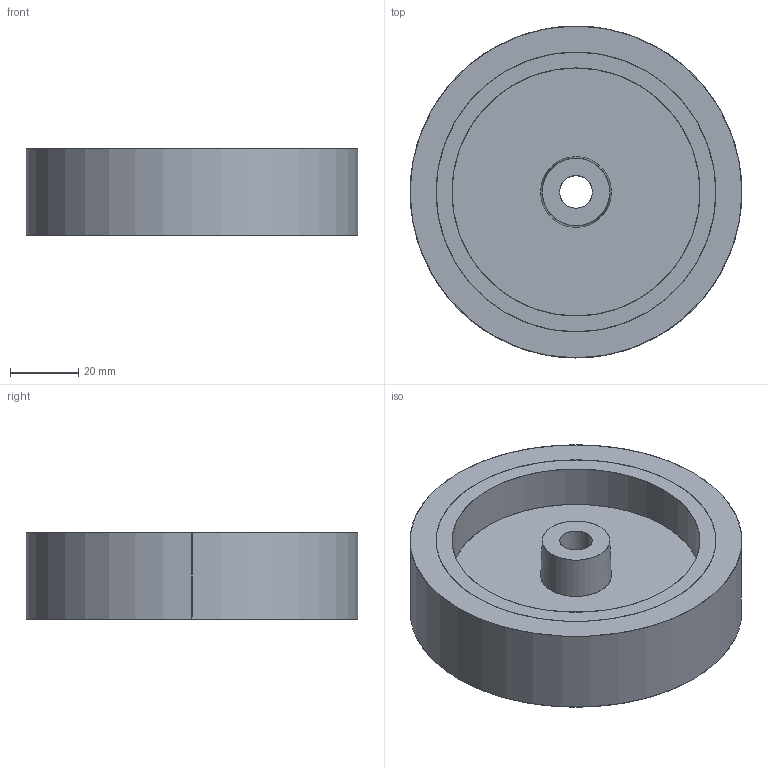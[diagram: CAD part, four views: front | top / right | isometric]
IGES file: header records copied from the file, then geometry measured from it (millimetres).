
Start section: SolidWorks IGES file using analytic representation for surfaces
Global section: file name: W:\Teams\Mech\SE data\Product_Lines\Sensors\Website models\WF1000OF\IGES\WF1000OF.IGS; native system: SolidWorks 2022; preprocessor: SolidWorks 2022; author: joseph.cirabisi; date: 240812.112916; units: inch
Bounding box: 97.21 x 97.21 x 25.4 mm (x, y, z)
Surface area: 39972.5 mm2 (no closed solid volume)
Topology: 0 solids, 0 shells, 18 faces, 688 edges, 688 vertices
Faces by surface type: revolution 12, bspline 6
